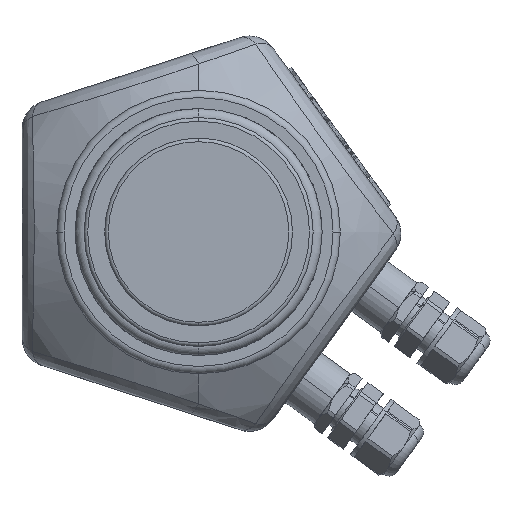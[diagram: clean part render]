
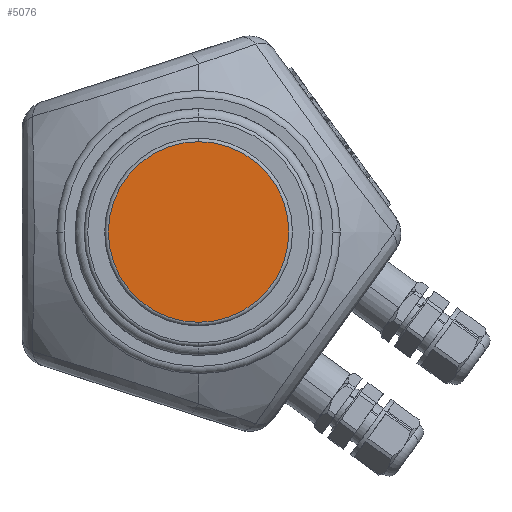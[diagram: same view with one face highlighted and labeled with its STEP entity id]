
A CAD part, front view. The second image highlights one B-rep face of the part: STEP entity #5076.
In plain terms, the highlighted planar face has unit normal (0, -1, 0).
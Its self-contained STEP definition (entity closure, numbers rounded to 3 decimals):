
#246=CARTESIAN_POINT('',(0.,-103.,0.));
#247=DIRECTION('',(0.,-1.,0.));
#248=DIRECTION('',(0.,0.,1.));
#249=AXIS2_PLACEMENT_3D('',#246,#247,#248);
#251=CARTESIAN_POINT('',(0.,-103.,0.));
#252=DIRECTION('',(0.,-1.,0.));
#253=DIRECTION('',(0.,0.,-1.));
#254=AXIS2_PLACEMENT_3D('',#251,#252,#253);
#3899=CARTESIAN_POINT('',(0.,-103.,25.));
#3900=CARTESIAN_POINT('',(0.,-103.,-25.));
#3901=VERTEX_POINT('',#3899);
#3902=VERTEX_POINT('',#3900);
#5066=CARTESIAN_POINT('',(0.,-103.,0.));
#5067=DIRECTION('',(0.,-1.,0.));
#5068=DIRECTION('',(0.,0.,1.));
#5069=AXIS2_PLACEMENT_3D('',#5066,#5067,#5068);
#5070=PLANE('',#5069);
#5071=ORIENTED_EDGE('',*,*,#5056,.F.);
#5073=ORIENTED_EDGE('',*,*,#5072,.F.);
#5074=EDGE_LOOP('',(#5071,#5073));
#5075=FACE_OUTER_BOUND('',#5074,.F.);
#5076=ADVANCED_FACE('',(#5075),#5070,.T.);
#250=CIRCLE('',#249,25.);
#255=CIRCLE('',#254,25.);
#5056=EDGE_CURVE('',#3901,#3902,#250,.T.);
#5072=EDGE_CURVE('',#3902,#3901,#255,.T.);
